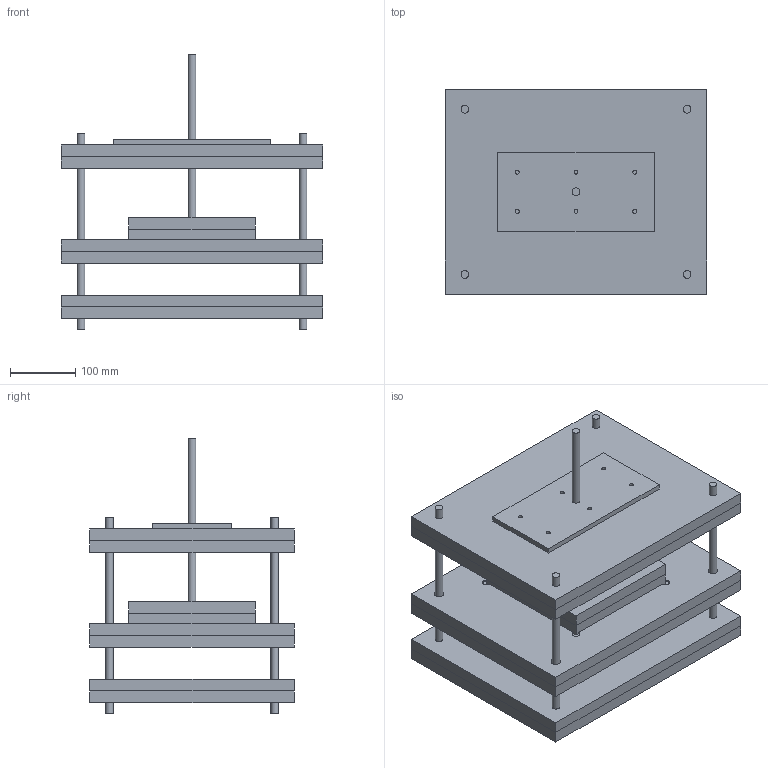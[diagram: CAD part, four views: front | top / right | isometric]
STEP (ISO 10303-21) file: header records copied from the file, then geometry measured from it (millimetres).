
FILE_DESCRIPTION(/* description */ (''),/* implementation_level */ '2;1');
FILE_NAME(/* name */ 'C:/Users/savva/Desktop/Vertical Press.step',/* time_stamp */ '2021-07-07T08:36:36+01:00',/* author */ (''),/* organization */ (''),/* preprocessor_version */ 'ST-DEVELOPER v18.1',/* originating_system */ 'Autodesk Translation Framework v10.9.0.1377',/* authorisation */ '');
FILE_SCHEMA (('AUTOMOTIVE_DESIGN { 1 0 10303 214 3 1 1 }'));
Length unit declared in the file: millimetre
Products named in the file (22): Vertical Press Assembled; Top Metal; Top 1; Top 2; Plunger 1; Plunger 2; Plunger 3; Plunger 4; Base 1; Base 2; Base 1 (1); Threaded Rods; threaded Rod 2; Plunger 1 (1); Plunger 2 (1); Plunger 3 (1); Plunger 4 (1); Base 1 (2); Base 2 (1); Top 1 (2); Top 2 (1); Top Metal (1)
Assembly tree (21 placements, depth 3):
  Vertical Press Assembled
    Top Metal
    Top 1
    Top 2
    Plunger 1
    Plunger 2
    Plunger 3
    Plunger 4
    Base 1
    Base 2
      Base 1 (1)
    Threaded Rods
    threaded Rod 2
    Plunger 1 (1)
    Plunger 2 (1)
    Plunger 3 (1)
    Plunger 4 (1)
    Base 1 (2)
    Base 2 (1)
    Top 1 (2)
    Top 2 (1)
    Top Metal (1)
Bounding box: 400 x 313 x 422.01 mm (x, y, z)
Volume: 15080894.4 mm3; surface area: 1972460.2 mm2
Topology: 14 solids, 14 shells, 138 faces, 321 edges, 214 vertices
Faces by surface type: plane 83, cylinder 55
Full cylindrical faces by diameter (mm): 6.1 x18, 12 x23, 15 x8, 35.5 x2
Entity records: 4797 total; most frequent: DIRECTION 793, CARTESIAN_POINT 716, ORIENTED_EDGE 642, EDGE_CURVE 321, AXIS2_PLACEMENT_3D 291, EDGE_LOOP 233, VERTEX_POINT 214, LINE 211
